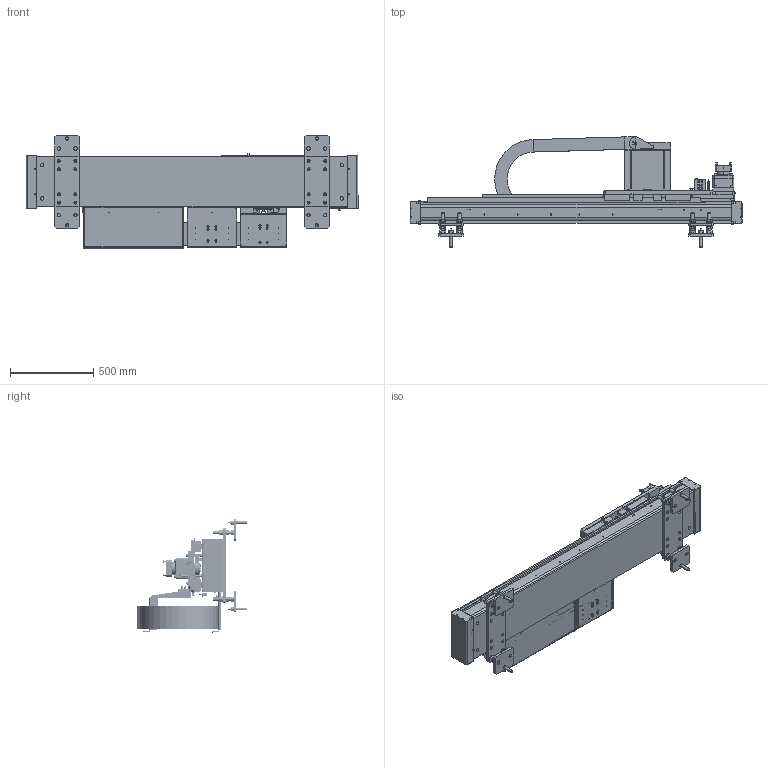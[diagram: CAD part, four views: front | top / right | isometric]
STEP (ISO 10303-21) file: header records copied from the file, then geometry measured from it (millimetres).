
FILE_DESCRIPTION (( 'STEP AP214' ), '1' );
FILE_NAME ('306535-100-1(TM1010_1000TR)_ŽÐŠOŒü‚¯.STEP', '2024-05-14T01:47:45', ( '' ), ( '' ), 'SwSTEP 2.0', 'SolidWorks 2021', '' );
FILE_SCHEMA (( 'AUTOMOTIVE_DESIGN' ));
Length unit declared in the file: millimetre
Products named in the file (3): 306535-100-1(TM1010_1000TR)_固定部; 306535-100-1(TM1010_1000TR)_社外向け; 306535-100-0_可動部 Assy_社外向け
Assembly tree (2 placements, depth 2):
  306535-100-1(TM1010_1000TR)_社外向け
    306535-100-1(TM1010_1000TR)_固定部
    306535-100-0_可動部 Assy_社外向け
Bounding box: 1994 x 662 x 682.5 mm (x, y, z)
Surface area: 7137824.6 mm2 (no closed solid volume)
Topology: 0 solids, 344 shells, 2979 faces, 10136 edges, 7330 vertices
Faces by surface type: plane 1687, cylinder 899, cone 267, bspline 104, torus 20, sphere 2
Entity records: 148860 total; most frequent: CARTESIAN_POINT 27138, DIRECTION 19074, ORIENTED_EDGE 15678, EDGE_CURVE 10113, VERTEX_POINT 7330, AXIS2_PLACEMENT_3D 6751, LINE 5572, VECTOR 5572
